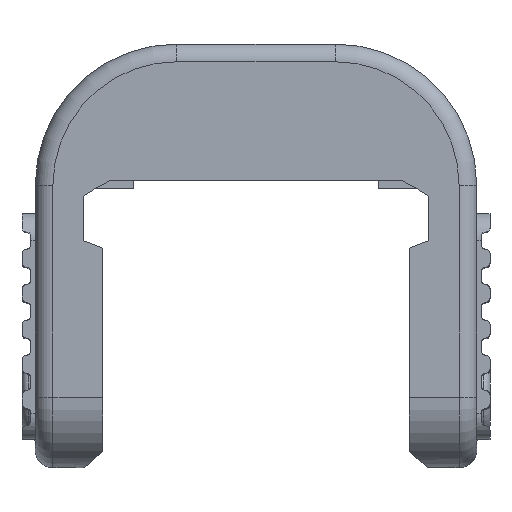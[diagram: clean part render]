
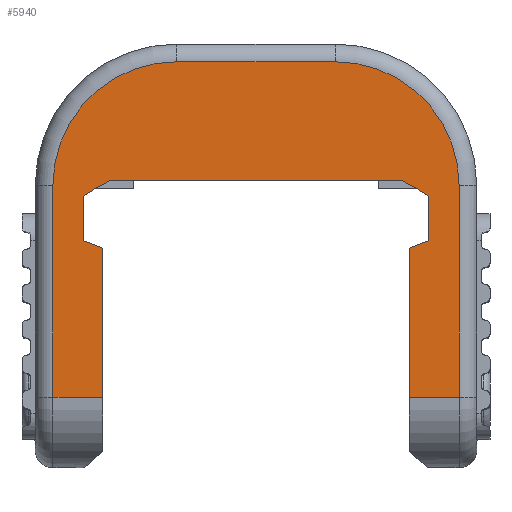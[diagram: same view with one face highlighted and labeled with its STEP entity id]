
A CAD part, front view. The second image highlights one B-rep face of the part: STEP entity #5940.
In plain terms, the highlighted planar face has unit normal (0, -1, 0).
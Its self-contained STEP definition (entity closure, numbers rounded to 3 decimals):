
#5667=CARTESIAN_POINT('',(19.51,557.,25.754));
#5668=VERTEX_POINT('',#5667);
#5683=CARTESIAN_POINT('',(19.51,557.,20.74));
#5684=VERTEX_POINT('',#5683);
#5691=CARTESIAN_POINT('',(19.51,557.,20.74));
#5692=DIRECTION('',(-0.,-0.,1.));
#5693=VECTOR('',#5692,5.015);
#5694=LINE('',#5691,#5693);
#5695=EDGE_CURVE('',#5684,#5668,#5694,.T.);
#5715=CARTESIAN_POINT('',(-19.51,557.,25.753));
#5716=VERTEX_POINT('',#5715);
#5723=CARTESIAN_POINT('',(-19.51,557.,20.74));
#5724=VERTEX_POINT('',#5723);
#5725=CARTESIAN_POINT('',(-19.51,557.,20.74));
#5726=DIRECTION('',(0.,0.,1.));
#5727=VECTOR('',#5726,5.013);
#5728=LINE('',#5725,#5727);
#5729=EDGE_CURVE('',#5724,#5716,#5728,.T.);
#5805=CARTESIAN_POINT('',(25.,557.,19.));
#5806=DIRECTION('',(0.,1.,0.));
#5807=DIRECTION('',(0.,0.,1.));
#5808=AXIS2_PLACEMENT_3D('',#5805,#5806,#5807);
#5809=PLANE('',#5808);
#5810=CARTESIAN_POINT('',(17.335,557.,3.));
#5811=VERTEX_POINT('',#5810);
#5812=CARTESIAN_POINT('',(23.,557.,3.));
#5813=VERTEX_POINT('',#5812);
#5814=CARTESIAN_POINT('',(17.335,557.,3.));
#5815=DIRECTION('',(1.,0.,-0.));
#5816=VECTOR('',#5815,5.665);
#5817=LINE('',#5814,#5816);
#5818=EDGE_CURVE('',#5811,#5813,#5817,.T.);
#5819=ORIENTED_EDGE('',*,*,#5818,.T.);
#5820=CARTESIAN_POINT('',(23.,557.,27.));
#5821=VERTEX_POINT('',#5820);
#5822=CARTESIAN_POINT('',(23.,557.,3.));
#5823=DIRECTION('',(0.,0.,1.));
#5824=VECTOR('',#5823,24.);
#5825=LINE('',#5822,#5824);
#5826=EDGE_CURVE('',#5813,#5821,#5825,.T.);
#5827=ORIENTED_EDGE('',*,*,#5826,.T.);
#5828=CARTESIAN_POINT('',(9.,557.,41.));
#5829=VERTEX_POINT('',#5828);
#5830=CARTESIAN_POINT('',(9.,557.,27.));
#5831=DIRECTION('',(-0.,-1.,-0.));
#5832=DIRECTION('',(0.,-0.,1.));
#5833=AXIS2_PLACEMENT_3D('',#5830,#5831,#5832);
#5834=CIRCLE('',#5833,14.);
#5835=EDGE_CURVE('',#5821,#5829,#5834,.T.);
#5836=ORIENTED_EDGE('',*,*,#5835,.T.);
#5837=CARTESIAN_POINT('',(-9.,557.,41.));
#5838=VERTEX_POINT('',#5837);
#5839=CARTESIAN_POINT('',(9.,557.,41.));
#5840=DIRECTION('',(-1.,-0.,0.));
#5841=VECTOR('',#5840,18.);
#5842=LINE('',#5839,#5841);
#5843=EDGE_CURVE('',#5829,#5838,#5842,.T.);
#5844=ORIENTED_EDGE('',*,*,#5843,.T.);
#5845=CARTESIAN_POINT('',(-23.,557.,27.));
#5846=VERTEX_POINT('',#5845);
#5847=CARTESIAN_POINT('',(-9.,557.,27.));
#5848=DIRECTION('',(-0.,-1.,-0.));
#5849=DIRECTION('',(0.,-0.,1.));
#5850=AXIS2_PLACEMENT_3D('',#5847,#5848,#5849);
#5851=CIRCLE('',#5850,14.);
#5852=EDGE_CURVE('',#5838,#5846,#5851,.T.);
#5853=ORIENTED_EDGE('',*,*,#5852,.T.);
#5854=CARTESIAN_POINT('',(-23.,557.,3.));
#5855=VERTEX_POINT('',#5854);
#5856=CARTESIAN_POINT('',(-23.,557.,27.));
#5857=DIRECTION('',(-0.,-0.,-1.));
#5858=VECTOR('',#5857,24.);
#5859=LINE('',#5856,#5858);
#5860=EDGE_CURVE('',#5846,#5855,#5859,.T.);
#5861=ORIENTED_EDGE('',*,*,#5860,.T.);
#5862=CARTESIAN_POINT('',(-17.35,557.,3.));
#5863=VERTEX_POINT('',#5862);
#5864=CARTESIAN_POINT('',(-23.,557.,3.));
#5865=DIRECTION('',(1.,0.,-0.));
#5866=VECTOR('',#5865,5.65);
#5867=LINE('',#5864,#5866);
#5868=EDGE_CURVE('',#5855,#5863,#5867,.T.);
#5869=ORIENTED_EDGE('',*,*,#5868,.T.);
#5870=CARTESIAN_POINT('',(-17.35,557.,19.9));
#5871=VERTEX_POINT('',#5870);
#5872=CARTESIAN_POINT('',(-17.35,557.,3.));
#5873=DIRECTION('',(0.,0.,1.));
#5874=VECTOR('',#5873,16.9);
#5875=LINE('',#5872,#5874);
#5876=EDGE_CURVE('',#5863,#5871,#5875,.T.);
#5877=ORIENTED_EDGE('',*,*,#5876,.T.);
#5878=CARTESIAN_POINT('',(-17.35,557.,19.9));
#5879=DIRECTION('',(-0.932,0.,0.362));
#5880=VECTOR('',#5879,2.318);
#5881=LINE('',#5878,#5880);
#5882=EDGE_CURVE('',#5871,#5724,#5881,.T.);
#5883=ORIENTED_EDGE('',*,*,#5882,.T.);
#5884=ORIENTED_EDGE('',*,*,#5729,.T.);
#5885=CARTESIAN_POINT('',(-18.195,557.,26.679));
#5886=VERTEX_POINT('',#5885);
#5887=CARTESIAN_POINT('',(-18.195,557.,26.679));
#5888=DIRECTION('',(-0.818,0.,-0.576));
#5889=VECTOR('',#5888,1.608);
#5890=LINE('',#5887,#5889);
#5891=EDGE_CURVE('',#5886,#5716,#5890,.T.);
#5892=ORIENTED_EDGE('',*,*,#5891,.F.);
#5893=CARTESIAN_POINT('',(-16.6,557.,27.5));
#5894=VERTEX_POINT('',#5893);
#5895=CARTESIAN_POINT('',(-16.6,557.,27.5));
#5896=DIRECTION('',(-0.889,0.,-0.458));
#5897=VECTOR('',#5896,1.794);
#5898=LINE('',#5895,#5897);
#5899=EDGE_CURVE('',#5894,#5886,#5898,.T.);
#5900=ORIENTED_EDGE('',*,*,#5899,.F.);
#5901=CARTESIAN_POINT('',(16.6,557.,27.5));
#5902=VERTEX_POINT('',#5901);
#5903=CARTESIAN_POINT('',(-16.6,557.,27.5));
#5904=DIRECTION('',(1.,0.,-0.));
#5905=VECTOR('',#5904,33.2);
#5906=LINE('',#5903,#5905);
#5907=EDGE_CURVE('',#5894,#5902,#5906,.T.);
#5908=ORIENTED_EDGE('',*,*,#5907,.T.);
#5909=CARTESIAN_POINT('',(18.195,557.,26.679));
#5910=VERTEX_POINT('',#5909);
#5911=CARTESIAN_POINT('',(16.6,557.,27.5));
#5912=DIRECTION('',(0.889,0.,-0.458));
#5913=VECTOR('',#5912,1.794);
#5914=LINE('',#5911,#5913);
#5915=EDGE_CURVE('',#5902,#5910,#5914,.T.);
#5916=ORIENTED_EDGE('',*,*,#5915,.T.);
#5917=CARTESIAN_POINT('',(19.51,557.,25.754));
#5918=DIRECTION('',(-0.818,0.,0.575));
#5919=VECTOR('',#5918,1.607);
#5920=LINE('',#5917,#5919);
#5921=EDGE_CURVE('',#5668,#5910,#5920,.T.);
#5922=ORIENTED_EDGE('',*,*,#5921,.F.);
#5923=ORIENTED_EDGE('',*,*,#5695,.F.);
#5924=CARTESIAN_POINT('',(17.35,557.,19.9));
#5925=VERTEX_POINT('',#5924);
#5926=CARTESIAN_POINT('',(17.35,557.,19.9));
#5927=DIRECTION('',(0.932,0.,0.362));
#5928=VECTOR('',#5927,2.318);
#5929=LINE('',#5926,#5928);
#5930=EDGE_CURVE('',#5925,#5684,#5929,.T.);
#5931=ORIENTED_EDGE('',*,*,#5930,.F.);
#5932=CARTESIAN_POINT('',(17.335,557.,3.));
#5933=DIRECTION('',(0.001,0.,1.));
#5934=VECTOR('',#5933,16.9);
#5935=LINE('',#5932,#5934);
#5936=EDGE_CURVE('',#5811,#5925,#5935,.T.);
#5937=ORIENTED_EDGE('',*,*,#5936,.F.);
#5938=EDGE_LOOP('',(#5819,#5827,#5836,#5844,#5853,#5861,#5869,#5877,#5883,#5884,#5892,#5900,#5908,#5916,#5922,#5923,#5931,#5937));
#5939=FACE_BOUND('',#5938,.T.);
#5940=ADVANCED_FACE('',(#5939),#5809,.F.);
